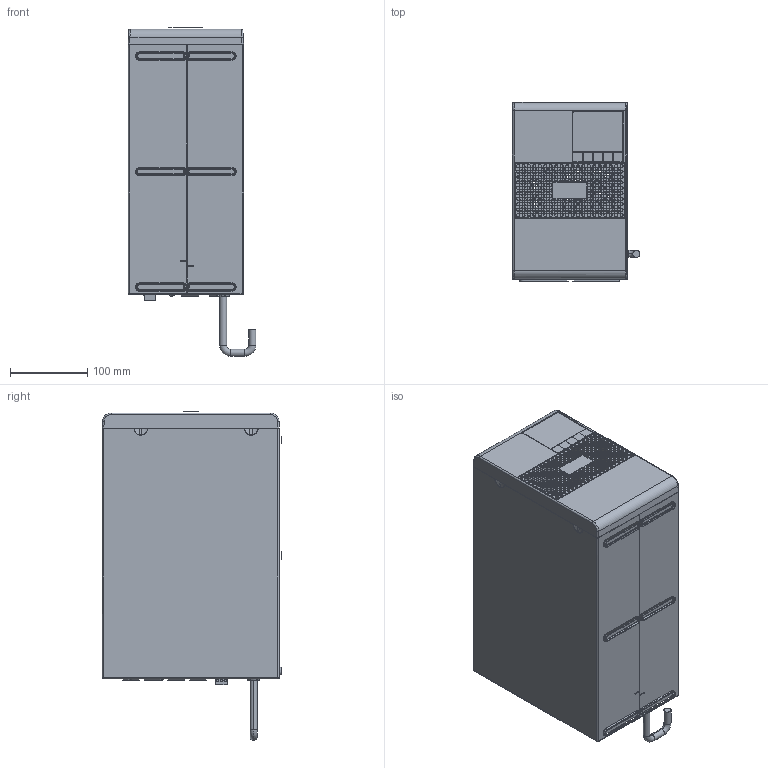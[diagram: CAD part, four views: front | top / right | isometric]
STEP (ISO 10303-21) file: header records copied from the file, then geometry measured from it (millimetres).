
FILE_DESCRIPTION((''),'2;1');
FILE_NAME('9210-5138-XX_US1000','2013-03-05T',('E2018535'),(''),'PRO/ENGINEER BY PARAMETRIC TECHNOLOGY CORPORATION, 2011220','PRO/ENGINEER BY PARAMETRIC TECHNOLOGY CORPORATION, 2011220','');
FILE_SCHEMA(('AUTOMOTIVE_DESIGN_CC2 { 1 2 10303 214 -1 1 5 2 }'));
Length unit declared in the file: millimetre
Products named in the file (1): 9210-5138-XX_US1000
Bounding box: 166.1 x 233 x 427 mm (x, y, z)
Surface area: 333546.9 mm2 (no closed solid volume)
Topology: 0 solids, 89 shells, 248 faces, 2388 edges, 2220 vertices
Faces by surface type: plane 130, cylinder 40, torus 32, cone 20, sphere 15, bspline 11
Entity records: 26930 total; most frequent: CARTESIAN_POINT 7959, DIRECTION 3740, ORIENTED_EDGE 2617, EDGE_CURVE 2386, VERTEX_POINT 2220, AXIS2_PLACEMENT_3D 1399, CIRCLE 1162, VECTOR 942
